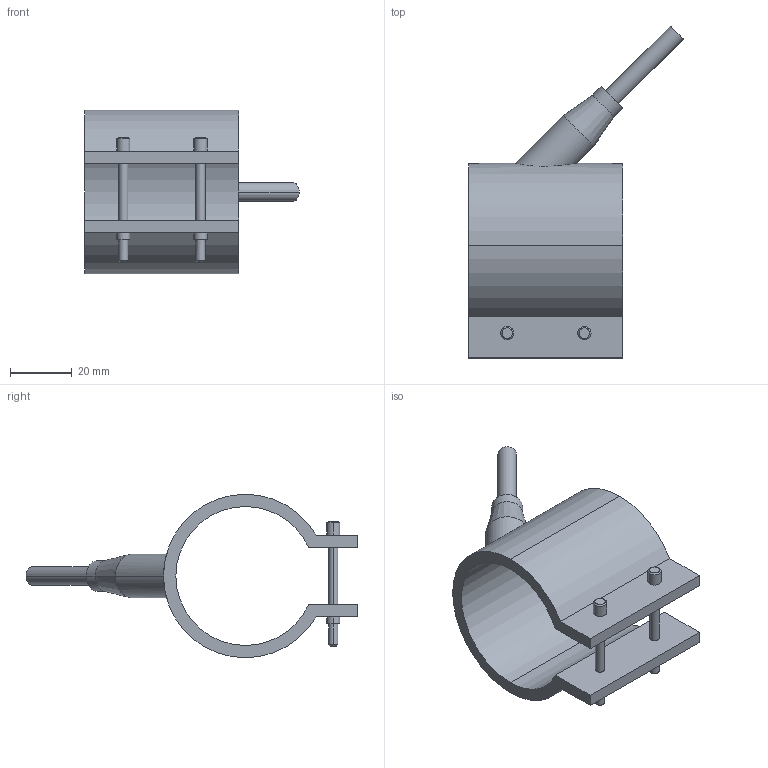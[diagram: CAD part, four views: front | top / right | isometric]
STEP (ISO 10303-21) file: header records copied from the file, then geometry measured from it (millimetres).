
FILE_DESCRIPTION(('CATIA V5 STEP Exchange'),'2;1');
FILE_NAME('C:\Users\Utente\Desktop\IO LAVORO\3D X SITO CF\X SITO\PLASTICA\RF1\29045050.stp','2021-03-27T09:33:20+00:00',('none'),('none'),'CATIA Version 5 Release 20 GA (IN-10)','CATIA V5 STEP AP203','none');
FILE_SCHEMA(('CONFIG_CONTROL_DESIGN'));
Length unit declared in the file: millimetre
Products named in the file (1): 29045050
Bounding box: 69.55 x 107.55 x 53 mm (x, y, z)
Volume: 37371.9 mm3; surface area: 19979.9 mm2
Topology: 1 solids, 1 shells, 54 faces, 122 edges, 78 vertices
Faces by surface type: cylinder 28, plane 16, cone 10
Entity records: 1714 total; most frequent: CARTESIAN_POINT 483, ORIENTED_EDGE 244, DIRECTION 215, EDGE_CURVE 122, AXIS2_PLACEMENT_3D 108, VERTEX_POINT 78, EDGE_LOOP 66, VECTOR 56
